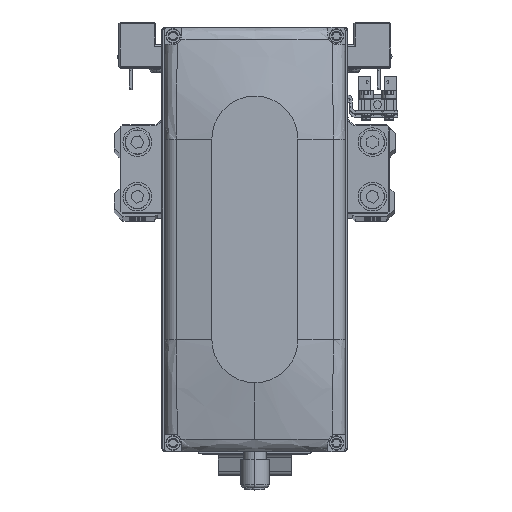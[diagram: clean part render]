
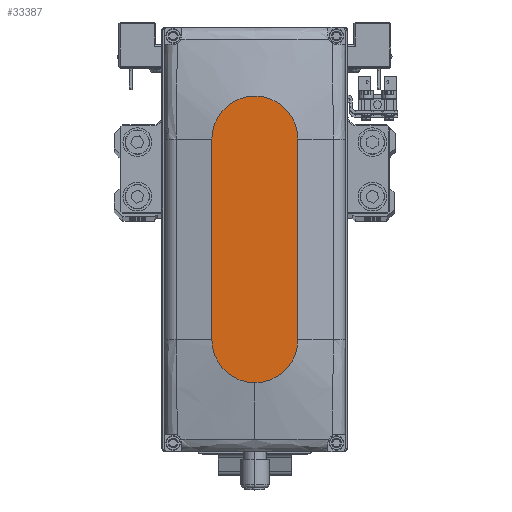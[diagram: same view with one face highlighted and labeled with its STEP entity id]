
A CAD part, top view. The second image highlights one B-rep face of the part: STEP entity #33387.
In plain terms, the highlighted planar face has unit normal (0, 0, 1).
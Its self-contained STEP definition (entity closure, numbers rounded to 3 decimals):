
#129 = DIRECTION ( 'NONE',  ( 1., 0., 0. ) ) ;
#3031 = CARTESIAN_POINT ( 'NONE',  ( -35., -15., 35. ) ) ;
#3742 = ORIENTED_EDGE ( 'NONE', *, *, #34946, .T. ) ;
#5162 = ORIENTED_EDGE ( 'NONE', *, *, #14441, .T. ) ;
#7660 = CARTESIAN_POINT ( 'NONE',  ( -35., 0., 35. ) ) ;
#8752 = CARTESIAN_POINT ( 'NONE',  ( -35., 15., 35. ) ) ;
#9071 = LINE ( 'NONE', #22502, #21258 ) ;
#9568 = CARTESIAN_POINT ( 'NONE',  ( 35., 15., 35. ) ) ;
#10032 = VERTEX_POINT ( 'NONE', #3031 ) ;
#10620 = CARTESIAN_POINT ( 'NONE',  ( 35., 0., 35. ) ) ;
#10967 = VERTEX_POINT ( 'NONE', #40287 ) ;
#11689 = EDGE_CURVE ( 'NONE', #10967, #24648, #35625, .T. ) ;
#11749 = DIRECTION ( 'NONE',  ( 0., 0., 1. ) ) ;
#12039 = CARTESIAN_POINT ( 'NONE',  ( -35., -15., 35. ) ) ;
#13704 = VECTOR ( 'NONE', #25463, 1000. ) ;
#14188 = AXIS2_PLACEMENT_3D ( 'NONE', #10620, #24038, #37410 ) ;
#14315 = EDGE_LOOP ( 'NONE', ( #5162, #35322, #25792, #3742, #40937 ) ) ;
#14365 = CIRCLE ( 'NONE', #38902, 15. ) ;
#14441 = EDGE_CURVE ( 'NONE', #24648, #32528, #9071, .T. ) ;
#15040 = FACE_OUTER_BOUND ( 'NONE', #14315, .T. ) ;
#15135 = EDGE_CURVE ( 'NONE', #32528, #10032, #14365, .T. ) ;
#16695 = AXIS2_PLACEMENT_3D ( 'NONE', #16873, #30275, #129 ) ;
#16873 = CARTESIAN_POINT ( 'NONE',  ( 35., 0., 35. ) ) ;
#19555 = CARTESIAN_POINT ( 'NONE',  ( 35., -15., 35. ) ) ;
#20141 = EDGE_CURVE ( 'NONE', #10032, #27250, #42124, .T. ) ;
#21107 = DIRECTION ( 'NONE',  ( 0., 0., 1. ) ) ;
#21258 = VECTOR ( 'NONE', #35876, 1000. ) ;
#22502 = CARTESIAN_POINT ( 'NONE',  ( -35., 15., 35. ) ) ;
#24038 = DIRECTION ( 'NONE',  ( 0., 0., 1. ) ) ;
#24648 = VERTEX_POINT ( 'NONE', #9568 ) ;
#25180 = DIRECTION ( 'NONE',  ( 1., 0., 0. ) ) ;
#25463 = DIRECTION ( 'NONE',  ( 1., 0., 0. ) ) ;
#25792 = ORIENTED_EDGE ( 'NONE', *, *, #20141, .T. ) ;
#27250 = VERTEX_POINT ( 'NONE', #19555 ) ;
#28460 = PLANE ( 'NONE',  #28544 ) ;
#28544 = AXIS2_PLACEMENT_3D ( 'NONE', #41822, #11749, #25180 ) ;
#30275 = DIRECTION ( 'NONE',  ( 0., 0., 1. ) ) ;
#32528 = VERTEX_POINT ( 'NONE', #8752 ) ;
#33142 = CIRCLE ( 'NONE', #14188, 15. ) ;
#33387 = ADVANCED_FACE ( 'NONE', ( #15040 ), #28460, .T. ) ;
#34483 = DIRECTION ( 'NONE',  ( 1., 0., 0. ) ) ;
#34946 = EDGE_CURVE ( 'NONE', #27250, #10967, #33142, .T. ) ;
#35322 = ORIENTED_EDGE ( 'NONE', *, *, #15135, .T. ) ;
#35625 = CIRCLE ( 'NONE', #16695, 15. ) ;
#35876 = DIRECTION ( 'NONE',  ( -1., 0., 0. ) ) ;
#37410 = DIRECTION ( 'NONE',  ( 1., 0., 0. ) ) ;
#38902 = AXIS2_PLACEMENT_3D ( 'NONE', #7660, #21107, #34483 ) ;
#40287 = CARTESIAN_POINT ( 'NONE',  ( 50., 0., 35. ) ) ;
#40937 = ORIENTED_EDGE ( 'NONE', *, *, #11689, .T. ) ;
#41822 = CARTESIAN_POINT ( 'NONE',  ( 0., 0., 35. ) ) ;
#42124 = LINE ( 'NONE', #12039, #13704 ) ;
